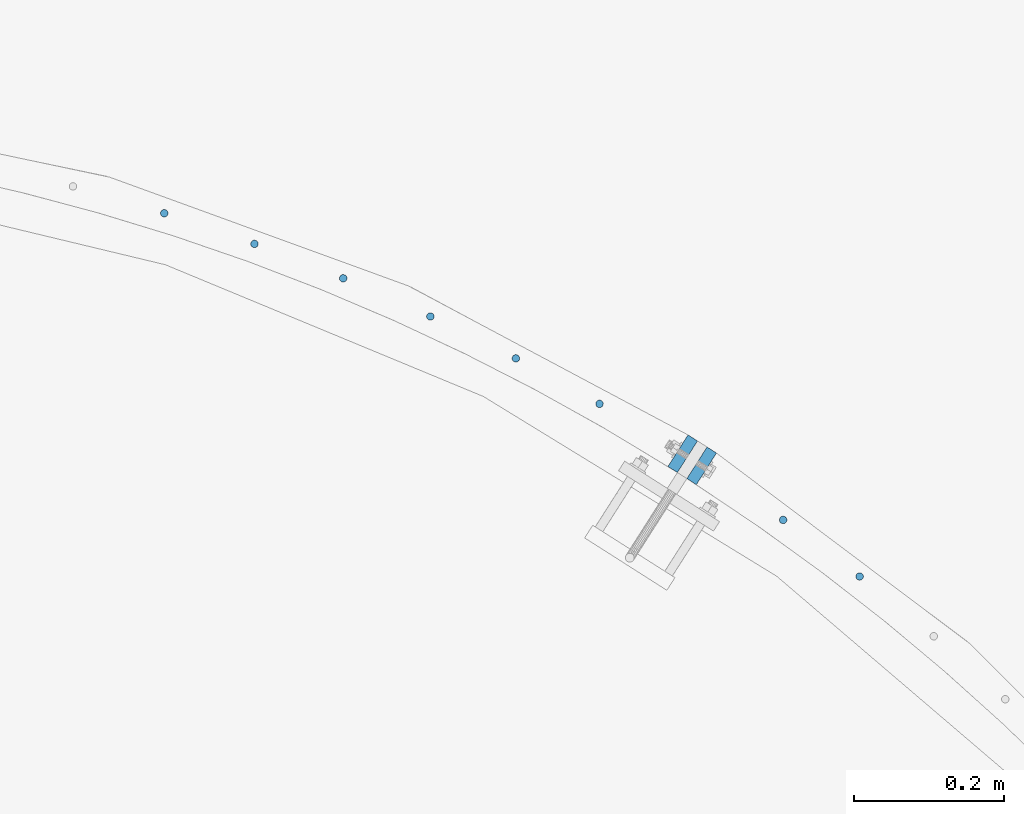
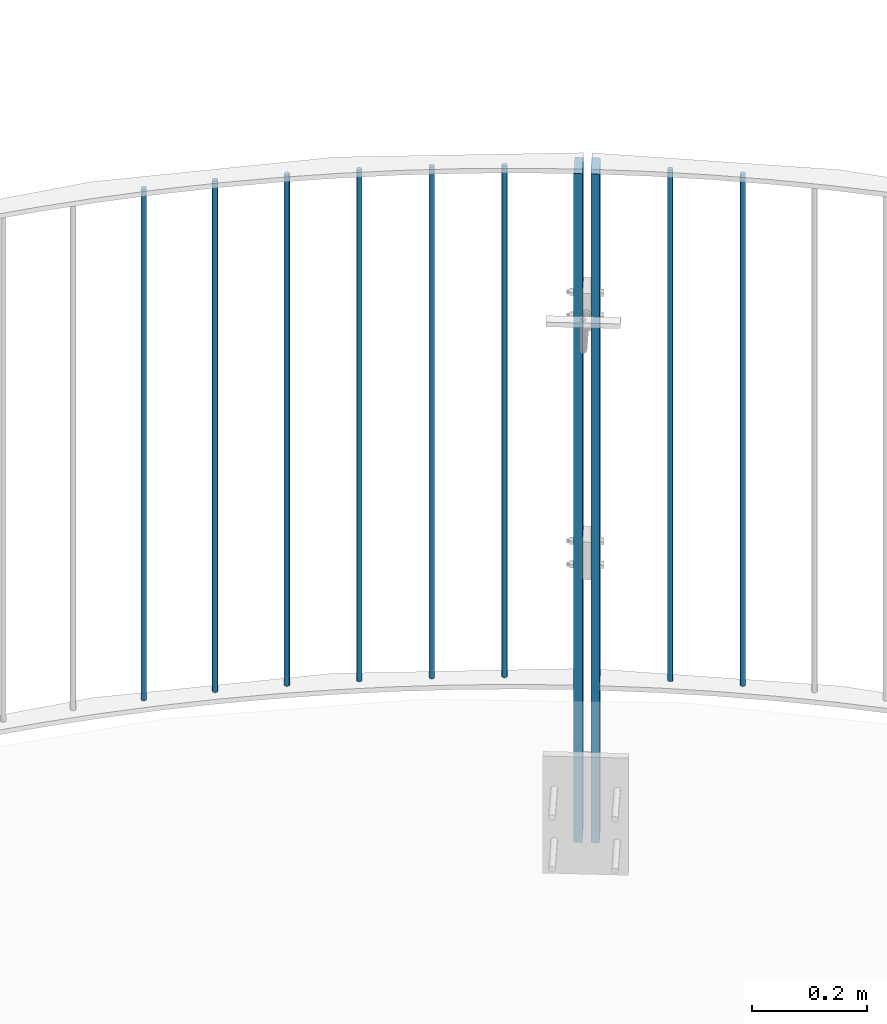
# One storey, part 94 of 296: 10 columns, 12 openings.
"""IFC2X3 building model written with IfcOpenShell, lengths in millimetres."""

from ifc_helpers import new_model, entity, si_unit, converted_unit, frame, frame_2d, origin, origin_with_axes, origin_2d, place, context, project, spatial, rectangle, circle, extrude, material, element, save


model = new_model("IFC2X3")

# Units and contexts
model_context = context("Model", 3, precision=1e-09, world=origin_with_axes())
ifc_project = project(units=[si_unit("LENGTHUNIT", "METRE", prefix="MILLI"), si_unit("AREAUNIT", "SQUARE_METRE"), si_unit("VOLUMEUNIT", "CUBIC_METRE"), converted_unit("PLANEANGLEUNIT", "DEGREE", entity("IfcPlaneAngleMeasure", 0.01745329), si_unit("PLANEANGLEUNIT", "RADIAN"), dimensions=[0, 0, 0, 0, 0, 0, 0])], contexts=[model_context])

# Site, building, storey
site_placement = place(None, origin_with_axes())
site = spatial("IfcSite", under=ifc_project, at=site_placement, Name="TZD-S?d | Treppenhausgel?nder", CompositionType="ELEMENT")
building_placement = place(site_placement, origin_with_axes())
building = spatial("IfcBuilding", under=site, at=building_placement, Name="Struktur 1", CompositionType="ELEMENT")
storey_placement = place(building_placement, origin_with_axes())
storey = spatial("IfcBuildingStorey", under=building, at=storey_placement, Name="Default Storey", CompositionType="ELEMENT", Elevation=0.0)

# Columns
ifc_material = material(Name="S235JR")
for number, where, z_axis, x_axis in (
    (1, (4754.886554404, 2266.022423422, 11725.0), (0.0, 0.0, -1.0), (-0.422618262, 0.906307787, 0.0)),
    (2, (4652.810548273, 2341.511969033, 11725.0), (0.0, 0.0, -1.0), (-0.422618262, 0.906307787, 0.0)),
    (3, (4407.879997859, 2496.374672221, 11725.0), (0.0, 0.0, -1.0), (-0.766044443, 0.64278761, 0.0)),
    (4, (4296.324050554, 2556.983690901, 11725.0), (0.0, 0.0, -1.0), (-0.766044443, 0.64278761, 0.0)),
    (5, (4182.29574631, 2612.802400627, 11725.0), (0.0, 0.0, -1.0), (-0.766044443, 0.64278761, 0.0)),
    (6, (4066.000667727, 2663.730165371, 11725.0), (0.0, 0.0, -1.0), (-0.766044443, 0.64278761, 0.0)),
    (7, (3947.648484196, 2709.675167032, 11725.0), (0.0, 0.0, -1.0), (-0.766044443, 0.64278761, 0.0)),
    (8, (3827.452573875, 2750.554570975, 11725.0), (0.0, 0.0, -1.0), (-0.766044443, 0.64278761, 0.0)),
):
    element("IfcColumn", number, at=place(None, frame(where, z_axis=z_axis, x_axis=x_axis)), inside=storey, material=ifc_material, Name="-", ObjectType="-", context=model_context, shape_type="SweptSolid", body=[
        extrude(circle(Radius=5.0, at=origin_2d()), origin(), (0.0, 0.0, -1.0), 1090.0),
    ])

# Column, openings
column_1_placement = place(None, frame((4518.87495727, 2429.799917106, 11390.001), z_axis=(0.0, 0.0, 1.0), x_axis=(0.843391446, -0.537299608, 0.0)))
column_1 = element("IfcColumn", 9, at=column_1_placement, inside=storey, material=ifc_material, Name="-", ObjectType="-", context=model_context, shape_type="SweptSolid", body=[
    extrude(rectangle(XDim=15.0, YDim=50.0, at=origin_2d()), origin(), (0.0, 0.0, 1.0), 1424.999),
])
opening_1_placement = place(column_1_placement, frame((-8.0, 5.001, 1154.999999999), z_axis=(-1.0, 0.0, 0.0), x_axis=(0.0, -1.0, 0.0)))
element("IfcOpeningElement", 10, at=opening_1_placement, cuts=column_1, ObjectType="Opening", context=model_context, shape_type="SweptSolid", body=[
    extrude(circle(Radius=5.001, at=frame_2d((5.001, 0.0), x_axis=(1.0, 0.0))), origin(), (0.0, 0.0, -1.0), 16.0),
])
opening_2_placement = place(column_1_placement, frame((-8.0, 5.001, 1104.999999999), z_axis=(-1.0, 0.0, 0.0), x_axis=(0.0, -1.0, 0.0)))
element("IfcOpeningElement", 11, at=opening_2_placement, cuts=column_1, ObjectType="Opening", context=model_context, shape_type="SweptSolid", body=[
    extrude(circle(Radius=5.001, at=frame_2d((5.001, 0.0), x_axis=(1.0, 0.0))), origin(), (0.0, 0.0, -1.0), 16.0),
])
opening_3_placement = place(column_1_placement, frame((-8.0, 7.001, 135.0), z_axis=(-1.0, 0.0, 0.0), x_axis=(0.0, -1.0, 0.0)))
element("IfcOpeningElement", 12, at=opening_3_placement, cuts=column_1, ObjectType="Opening", context=model_context, shape_type="SweptSolid", body=[
    extrude(circle(Radius=7.001, at=frame_2d((7.001, 0.0), x_axis=(1.0, 0.0))), origin(), (0.0, 0.0, -1.0), 16.0),
])
opening_4_placement = place(column_1_placement, frame((-8.0, 7.001, 35.0), z_axis=(-1.0, 0.0, 0.0), x_axis=(0.0, -1.0, 0.0)))
element("IfcOpeningElement", 13, at=opening_4_placement, cuts=column_1, ObjectType="Opening", context=model_context, shape_type="SweptSolid", body=[
    extrude(circle(Radius=7.001, at=frame_2d((7.001, 0.0), x_axis=(1.0, 0.0))), origin(), (0.0, 0.0, -1.0), 16.0),
])
opening_5_placement = place(column_1_placement, frame((-8.0, 5.001, 624.999999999), z_axis=(-1.0, 0.0, 0.0), x_axis=(0.0, -1.0, 0.0)))
element("IfcOpeningElement", 14, at=opening_5_placement, cuts=column_1, ObjectType="Opening", context=model_context, shape_type="SweptSolid", body=[
    extrude(circle(Radius=5.001, at=frame_2d((5.001, 0.0), x_axis=(1.0, 0.0))), origin(), (0.0, 0.0, -1.0), 16.0),
])
opening_6_placement = place(column_1_placement, frame((-8.0, 5.001, 574.999999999), z_axis=(-1.0, 0.0, 0.0), x_axis=(0.0, -1.0, 0.0)))
element("IfcOpeningElement", 15, at=opening_6_placement, cuts=column_1, ObjectType="Opening", context=model_context, shape_type="SweptSolid", body=[
    extrude(circle(Radius=5.001, at=frame_2d((5.001, 0.0), x_axis=(1.0, 0.0))), origin(), (0.0, 0.0, -1.0), 16.0),
])

column_2_placement = place(None, frame((4544.176700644, 2413.680928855, 11390.001), z_axis=(0.0, 0.0, -1.0), x_axis=(-0.843391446, 0.537299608, 0.0)))
column_2 = element("IfcColumn", 16, at=column_2_placement, inside=storey, material=ifc_material, Name="-", ObjectType="-", context=model_context, shape_type="SweptSolid", body=[
    extrude(rectangle(XDim=15.0, YDim=50.0, at=origin_2d()), origin(), (0.0, 0.0, -1.0), 1424.999),
])
opening_7_placement = place(column_2_placement, frame((8.0, 5.001, -1154.999999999), z_axis=(1.0, 0.0, 0.0), x_axis=(0.0, 1.0, 0.0)))
element("IfcOpeningElement", 17, at=opening_7_placement, cuts=column_2, ObjectType="Opening", context=model_context, shape_type="SweptSolid", body=[
    extrude(circle(Radius=5.001, at=frame_2d((-5.001, 0.0), x_axis=(1.0, 0.0))), origin(), (0.0, 0.0, -1.0), 16.0),
])
opening_8_placement = place(column_2_placement, frame((8.0, 5.001, -1104.999999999), z_axis=(1.0, 0.0, 0.0), x_axis=(0.0, 1.0, 0.0)))
element("IfcOpeningElement", 18, at=opening_8_placement, cuts=column_2, ObjectType="Opening", context=model_context, shape_type="SweptSolid", body=[
    extrude(circle(Radius=5.001, at=frame_2d((-5.001, 0.0), x_axis=(1.0, 0.0))), origin(), (0.0, 0.0, -1.0), 16.0),
])
opening_9_placement = place(column_2_placement, frame((8.0, 5.001, -624.999999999), z_axis=(1.0, 0.0, 0.0), x_axis=(0.0, 1.0, 0.0)))
element("IfcOpeningElement", 19, at=opening_9_placement, cuts=column_2, ObjectType="Opening", context=model_context, shape_type="SweptSolid", body=[
    extrude(circle(Radius=5.001, at=frame_2d((-5.001, 0.0), x_axis=(1.0, 0.0))), origin(), (0.0, 0.0, -1.0), 16.0),
])
opening_10_placement = place(column_2_placement, frame((8.0, 5.001, -574.999999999), z_axis=(1.0, 0.0, 0.0), x_axis=(0.0, 1.0, 0.0)))
element("IfcOpeningElement", 20, at=opening_10_placement, cuts=column_2, ObjectType="Opening", context=model_context, shape_type="SweptSolid", body=[
    extrude(circle(Radius=5.001, at=frame_2d((-5.001, 0.0), x_axis=(1.0, 0.0))), origin(), (0.0, 0.0, -1.0), 16.0),
])
opening_11_placement = place(column_2_placement, frame((8.0, 7.001, -135.0), z_axis=(1.0, 0.0, 0.0), x_axis=(0.0, 1.0, 0.0)))
element("IfcOpeningElement", 21, at=opening_11_placement, cuts=column_2, ObjectType="Opening", context=model_context, shape_type="SweptSolid", body=[
    extrude(circle(Radius=7.001, at=frame_2d((-7.001, 0.0), x_axis=(1.0, 0.0))), origin(), (0.0, 0.0, -1.0), 16.0),
])
opening_12_placement = place(column_2_placement, frame((8.0, 7.001, -35.0), z_axis=(1.0, 0.0, 0.0), x_axis=(0.0, 1.0, 0.0)))
element("IfcOpeningElement", 22, at=opening_12_placement, cuts=column_2, ObjectType="Opening", context=model_context, shape_type="SweptSolid", body=[
    extrude(circle(Radius=7.001, at=frame_2d((-7.001, 0.0), x_axis=(1.0, 0.0))), origin(), (0.0, 0.0, -1.0), 16.0),
])

save(model, "model.ifc")
